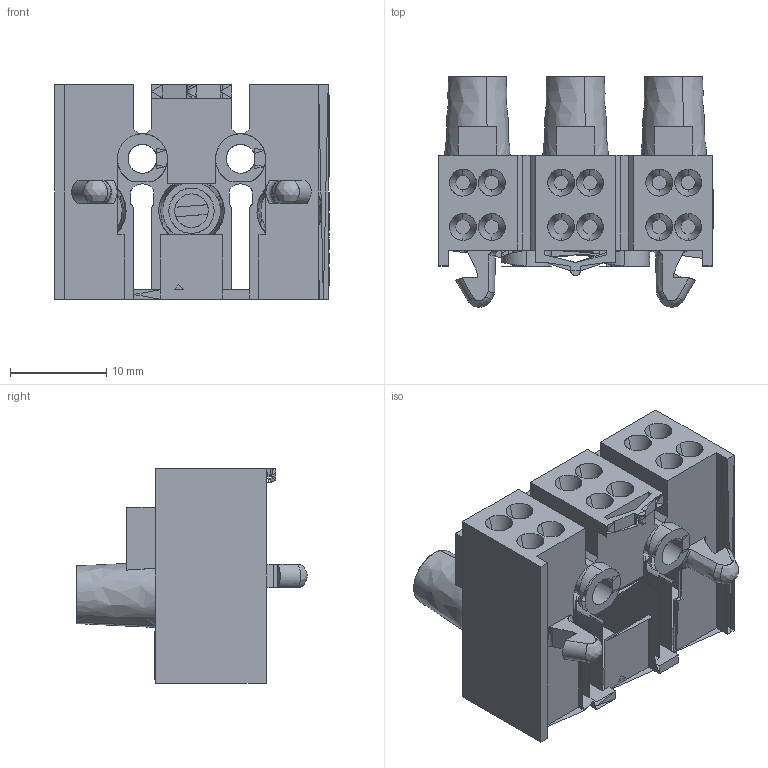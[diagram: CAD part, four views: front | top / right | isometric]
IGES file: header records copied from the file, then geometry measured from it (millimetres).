
Global section: file name: C:\Programme\core_technologie\in\00WYK01Y05.igs; native system: CT CoreTechnologie 3D Evolution; preprocessor: 2006; author: assmuth; date: 100304.133332; units: millimetre
Bounding box: 28.5 x 24 x 22.3 mm (x, y, z)
Surface area: 4713 mm2 (no closed solid volume)
Topology: 0 solids, 0 shells, 420 faces, 2008 edges, 1954 vertices
Faces by surface type: bspline 420
